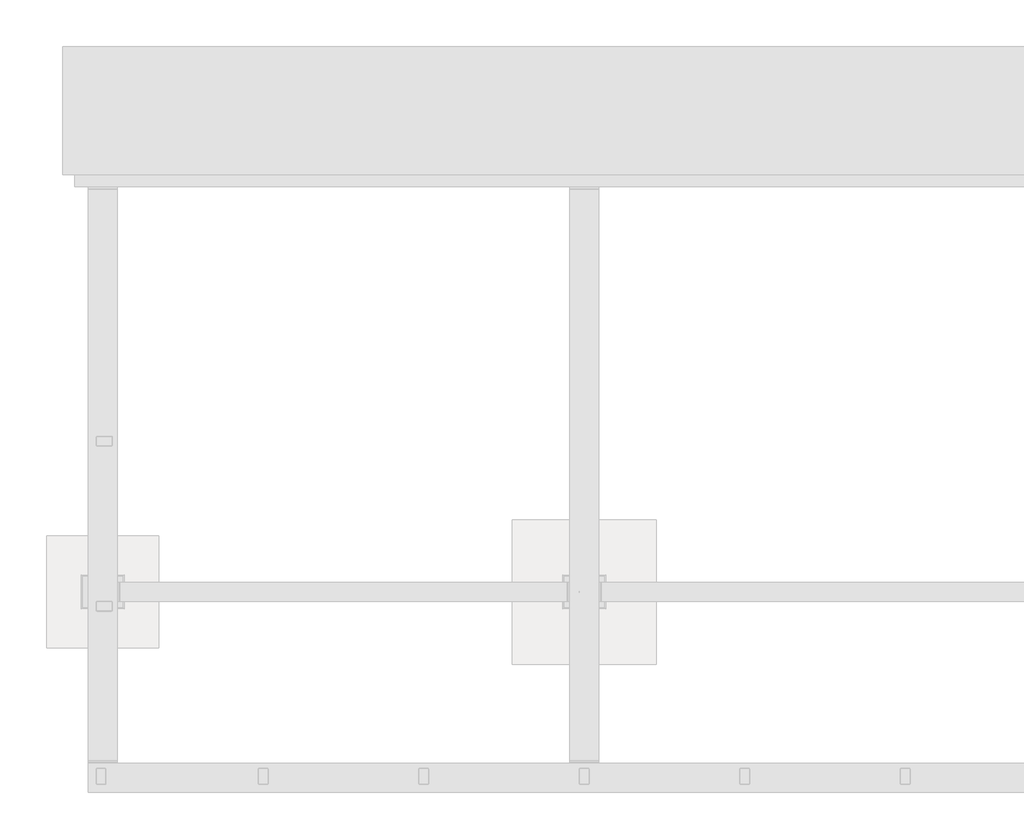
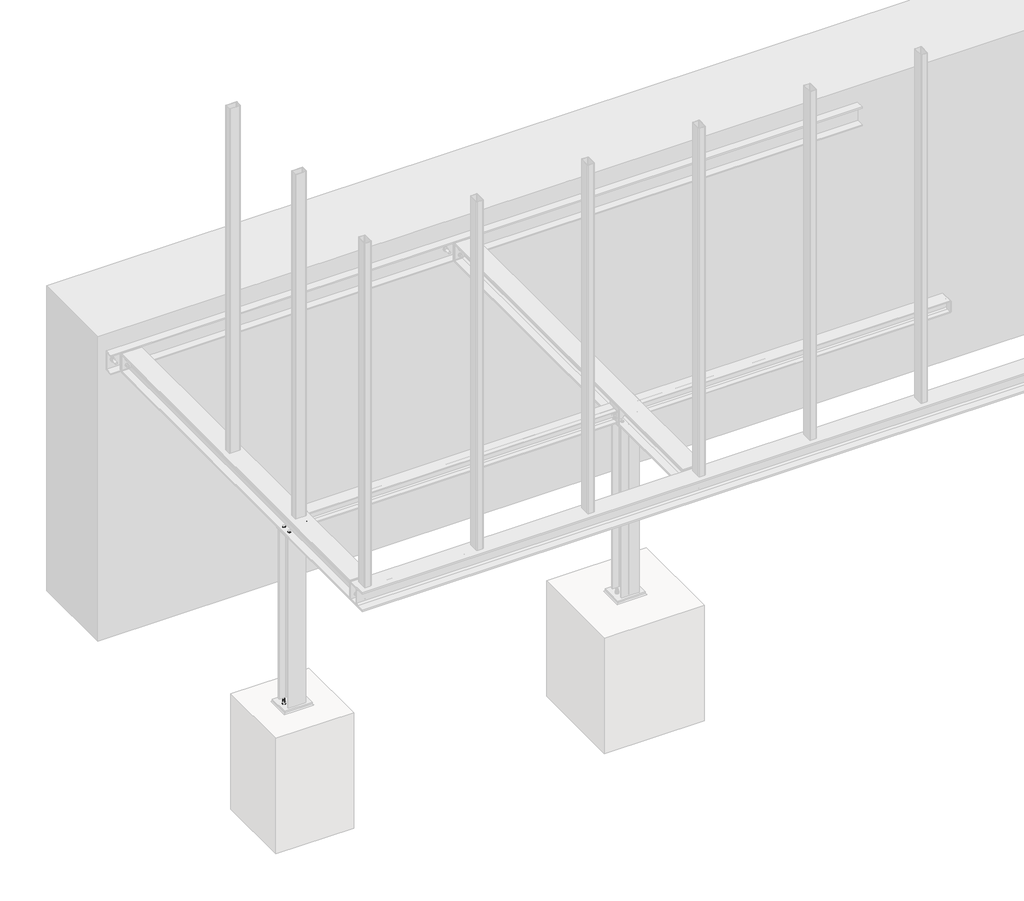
# One storey, part 17 of 31: 7 assemblies.
"""IFC4 building model written with IfcOpenShell, lengths in millimetres."""

import ifcopenshell
import ifcopenshell.guid

model = None  # the IFC model being written
_history = None  # IfcOwnerHistory: only IFC2X3 demands one
_inside = {}  # id of a spatial element -> (the spatial element, [elements in it])
_under = {}  # id of a project, library or spatial element -> (it, [spatial elements below it])
_declared = {}  # id of a project -> (the project, [libraries it declares])
_typed = {}  # id of a type object -> (the type object, [elements of that type])
_made_of = {}  # id of a material, layer set ... -> (it, [elements and type objects made of it])


def new_model(schema):
    """Start an empty IFC model of exactly this schema.

    Asked for "IFC4X3", IfcOpenShell would pick the latest addendum, in which some entities
    have other attributes; the version numbers below select the first issue.
    IFC2X3 requires an IfcOwnerHistory on every rooted entity: one is made here for all.
    """
    global model, _history
    if schema == "IFC4X3":
        model = ifcopenshell.file(schema_version=(4, 3, 0, 0))
    else:
        model = ifcopenshell.file(schema=schema)
    _inside.clear()
    _under.clear()
    _declared.clear()
    _typed.clear()
    _made_of.clear()
    _history = None
    if model.schema == "IFC2X3":
        org = make("IfcOrganization", Name="unknown")
        user = make(
            "IfcPersonAndOrganization",
            ThePerson=make("IfcPerson", FamilyName="unknown"),
            TheOrganization=org,
        )
        app = make(
            "IfcApplication",
            ApplicationDeveloper=org,
            Version="unknown",
            ApplicationFullName="unknown",
            ApplicationIdentifier="unknown",
        )
        _history = make(
            "IfcOwnerHistory",
            OwningUser=user,
            OwningApplication=app,
            ChangeAction="ADDED",
            CreationDate=0,
        )
    return model


def make(cls, **values):
    """One entity of the class cls with the attributes given. An attribute that is None is left unset."""
    return model.create_entity(
        cls, **{name: value for name, value in values.items() if value is not None}
    )


def rooted(cls, **values):
    """An entity with a GlobalId (a new one), such as an element, a storey or a relation."""
    return make(cls, GlobalId=ifcopenshell.guid.new(), OwnerHistory=_history, **values)


def si_unit(unit_type, name, prefix=None):
    """IfcSIUnit, for example si_unit("LENGTHUNIT", "METRE", prefix="MILLI")."""
    return make("IfcSIUnit", UnitType=unit_type, Prefix=prefix, Name=name)


def assignment(units):
    """IfcUnitAssignment: the units of a project."""
    return None if units is None else make("IfcUnitAssignment", Units=units)


def point(xyz):
    """IfcCartesianPoint."""
    return None if xyz is None else make("IfcCartesianPoint", Coordinates=xyz)


def direction(xyz):
    """IfcDirection."""
    return None if xyz is None else make("IfcDirection", DirectionRatios=xyz)


def frame(location, z_axis=None, x_axis=None):
    """IfcAxis2Placement3D, a coordinate frame: its origin and axes. An axis left out is left unset."""
    return make(
        "IfcAxis2Placement3D",
        Location=point(location),
        Axis=direction(z_axis),
        RefDirection=direction(x_axis),
    )


def frame_2d(location, x_axis=None):
    """IfcAxis2Placement2D, a coordinate frame in the plane: its origin and x axis."""
    return make(
        "IfcAxis2Placement2D", Location=point(location), RefDirection=direction(x_axis)
    )


def origin():
    """The frame at (0, 0, 0) with its axes left unset."""
    return frame((0.0, 0.0, 0.0))


def place(relative_to, where):
    """IfcLocalPlacement: puts the frame where relative to a parent placement (None: the world)."""
    return make(
        "IfcLocalPlacement", PlacementRelTo=relative_to, RelativePlacement=where
    )


def context(
    kind, dimensions, precision=None, world=None, true_north=None, identifier=None
):
    """IfcGeometricRepresentationContext, for example the 3D "Model" context."""
    return make(
        "IfcGeometricRepresentationContext",
        ContextIdentifier=identifier,
        ContextType=kind,
        CoordinateSpaceDimension=dimensions,
        Precision=precision,
        WorldCoordinateSystem=world,
        TrueNorth=true_north,
    )


def project(units=None, contexts=None):
    """IfcProject with its units and contexts."""
    return rooted(
        "IfcProject",
        Name="project",
        RepresentationContexts=contexts,
        UnitsInContext=assignment(units),
    )


def spatial(cls, under=None, at=None, **own):
    """A site, building, storey or space (cls), placed at a placement, below another one or the project."""
    s = rooted(cls, ObjectPlacement=at, **own)
    if under is not None:
        _under.setdefault(under.id(), (under, []))[1].append(s)
    return s


def polyline(points):
    """IfcPolyline through the points."""
    return make("IfcPolyline", Points=[point(p) for p in points])


def circle_curve(where, radius):
    """IfcCircle in the frame where."""
    return make("IfcCircle", Position=where, Radius=radius)


def trimmed(basis, trim1, trim2, sense, master):
    """IfcTrimmedCurve: the piece of a basis curve between two trims."""
    return make(
        "IfcTrimmedCurve",
        BasisCurve=basis,
        Trim1=trim1,
        Trim2=trim2,
        SenseAgreement=sense,
        MasterRepresentation=master,
    )


def segment(curve, same_sense, transition):
    """IfcCompositeCurveSegment."""
    return make(
        "IfcCompositeCurveSegment",
        Transition=transition,
        SameSense=same_sense,
        ParentCurve=curve,
    )


def composite_curve(segments, self_intersect=None):
    """IfcCompositeCurve: segments joined end to end."""
    return make("IfcCompositeCurve", Segments=segments, SelfIntersect=self_intersect)


def outline(outer, holes=None, kind="AREA"):
    """IfcArbitraryClosedProfileDef: a profile drawn as a closed curve; with holes, ...WithVoids."""
    if holes is None:
        return make("IfcArbitraryClosedProfileDef", ProfileType=kind, OuterCurve=outer)
    return make(
        "IfcArbitraryProfileDefWithVoids",
        ProfileType=kind,
        OuterCurve=outer,
        InnerCurves=holes,
    )


def extrude(swept, where, along, depth):
    """IfcExtrudedAreaSolid: the profile swept, set in the frame where, extruded along a direction by depth."""
    return make(
        "IfcExtrudedAreaSolid",
        SweptArea=swept,
        Position=where,
        ExtrudedDirection=direction(along),
        Depth=depth,
    )


def faces_of(points, faces, orient=None, outer=None):
    """IfcFace entities. A face is a list of loops; a loop is a list of indices into points, from 0.

    orient and outer hold one flag for each loop. By default every Orientation is true, the
    first loop of a face is its IfcFaceOuterBound and the others are IfcFaceBound.
    """
    made = []
    for i, loops in enumerate(faces):
        bounds = []
        for j, loop in enumerate(loops):
            is_outer = j == 0 if outer is None else outer[i][j]
            bounds.append(
                make(
                    "IfcFaceOuterBound" if is_outer else "IfcFaceBound",
                    Bound=make("IfcPolyLoop", Polygon=[points[k] for k in loop]),
                    Orientation=True if orient is None else orient[i][j],
                )
            )
        made.append(make("IfcFace", Bounds=bounds))
    return made


def faceted_brep(points, faces, orient=None, outer=None, voids=None):
    """IfcFacetedBrep: a solid bounded by flat faces; with voids (closed shells), ...WithVoids."""
    shared = [point(p) for p in points]
    hull = make("IfcClosedShell", CfsFaces=faces_of(shared, faces, orient, outer))
    if voids is None:
        return make("IfcFacetedBrep", Outer=hull)
    return make(
        "IfcFacetedBrepWithVoids",
        Outer=hull,
        Voids=[
            make(cls, CfsFaces=faces_of(shared, fs, o, b)) for cls, fs, o, b in voids
        ],
    )


def shape(context_of_items, identifier, shape_type, items):
    """IfcShapeRepresentation: the items that make up one representation, for example the "Body"."""
    return make(
        "IfcShapeRepresentation",
        ContextOfItems=context_of_items,
        RepresentationIdentifier=identifier,
        RepresentationType=shape_type,
        Items=items,
    )


def made_of(thing, what):
    """Note that an element or type object is made of a material, layer set ...; save() writes the relation."""
    if what is not None:
        _made_of.setdefault(what.id(), (what, []))[1].append(thing)
    return thing


def element(
    cls,
    number,
    at=None,
    inside=None,
    cuts=None,
    type_object=None,
    material=None,
    context=None,
    identifier="Body",
    shape_type=None,
    held_by="IfcProductDefinitionShape",
    body=None,
    shapes=None,
    **own,
):
    """One element of the class cls, such as IfcWall. Its Tag is "e" and its number.

    at: its placement. inside: the storey or other place that contains it. cuts: it is an
    opening in that element (IfcRelVoidsElement). A single representation is given by context,
    identifier, shape_type and body (its items); several are given by shapes. held_by: the class
    of the entity that holds the representations. save() writes the other relations.
    """
    e = rooted(cls, Tag="e%d" % number, ObjectPlacement=at, **own)
    if body is not None:
        shapes = [shape(context, identifier, shape_type, body)]
    if shapes is not None:
        e.Representation = make(held_by, Representations=shapes)
    if inside is not None:
        _inside.setdefault(inside.id(), (inside, []))[1].append(e)
    if cuts is not None:
        rooted(
            "IfcRelVoidsElement", RelatingBuildingElement=cuts, RelatedOpeningElement=e
        )
    if type_object is not None:
        _typed.setdefault(type_object.id(), (type_object, []))[1].append(e)
    return made_of(e, material)


def aggregate(whole, parts):
    """IfcRelAggregates: a whole, such as a stair, and the parts it consists of."""
    return rooted("IfcRelAggregates", RelatingObject=whole, RelatedObjects=parts)


def save(model, path):
    """Write the relations noted so far, then the file.

    IfcRelAggregates (storeys below a building ...), IfcRelContainedInSpatialStructure (elements
    in a storey), IfcRelDefinesByType, IfcRelAssociatesMaterial and IfcRelDeclares: one each for
    every whole, place, type object, material and project.
    """
    for whole, parts in _under.values():
        aggregate(whole, parts)
    for where, things in _inside.values():
        rooted(
            "IfcRelContainedInSpatialStructure",
            RelatedElements=things,
            RelatingStructure=where,
        )
    for kind, things in _typed.values():
        rooted("IfcRelDefinesByType", RelatedObjects=things, RelatingType=kind)
    for what, things in _made_of.values():
        rooted("IfcRelAssociatesMaterial", RelatedObjects=things, RelatingMaterial=what)
    for by, libraries in _declared.values():
        rooted("IfcRelDeclares", RelatingContext=by, RelatedDefinitions=libraries)
    model.write(path)


model = new_model("IFC4")

# Units and contexts
model_context = context("Model", 3, world=origin())
ifc_project = project(units=[si_unit("LENGTHUNIT", "METRE", prefix="MILLI")], contexts=[model_context])

# Site, building, storey
site = spatial("IfcSite", under=ifc_project)
building = spatial("IfcBuilding", under=site)
storey = spatial("IfcBuildingStorey", under=building, Name="Základy", Elevation=-1200.0)

# Assemblies
placement = place(None, origin())
element("IfcElementAssembly", 1, at=placement, inside=storey, context=model_context, shape_type="SweptSolid", body=[
    extrude(outline(composite_curve([segment(polyline([(3073.6, 60.0), (3026.4, 60.0)]), True, "CONTINUOUS"), segment(trimmed(circle_curve(frame_2d((3026.4, 66.4)), 6.4), [point((3026.4, 60.0))], [point((3020.0, 66.4))], False, "CARTESIAN"), True, "CONTINUOUS"), segment(polyline([(3020.0, 66.4), (3020.0, 153.6)]), True, "CONTINUOUS"), segment(trimmed(circle_curve(frame_2d((3026.4, 153.6)), 6.4), [point((3020.0, 153.6))], [point((3026.4, 160.0))], False, "CARTESIAN"), True, "CONTINUOUS"), segment(polyline([(3026.4, 160.0), (3073.6, 160.0)]), True, "CONTINUOUS"), segment(trimmed(circle_curve(frame_2d((3073.6, 153.6)), 6.4), [point((3073.6, 160.0))], [point((3080.0, 153.6))], False, "CARTESIAN"), True, "CONTINUOUS"), segment(polyline([(3080.0, 153.6), (3080.0, 66.4)]), True, "CONTINUOUS"), segment(trimmed(circle_curve(frame_2d((3073.6, 66.4)), 6.4), [point((3080.0, 66.4))], [point((3073.6, 60.0))], False, "CARTESIAN"), True, "CONTINUOUS")], self_intersect=False), holes=[composite_curve([segment(trimmed(circle_curve(frame_2d((3073.6, 66.4)), 3.2), [point((3073.6, 63.2))], [point((3076.8, 66.4))], True, "CARTESIAN"), True, "CONTINUOUS"), segment(polyline([(3076.8, 66.4), (3076.8, 153.6)]), True, "CONTINUOUS"), segment(trimmed(circle_curve(frame_2d((3073.6, 153.6)), 3.2), [point((3076.8, 153.6))], [point((3073.6, 156.8))], True, "CARTESIAN"), True, "CONTINUOUS"), segment(polyline([(3073.6, 156.8), (3026.4, 156.8)]), True, "CONTINUOUS"), segment(trimmed(circle_curve(frame_2d((3026.4, 153.6)), 3.2), [point((3026.4, 156.8))], [point((3023.2, 153.6))], True, "CARTESIAN"), True, "CONTINUOUS"), segment(polyline([(3023.2, 153.6), (3023.2, 66.4)]), True, "CONTINUOUS"), segment(trimmed(circle_curve(frame_2d((3026.4, 66.4)), 3.2), [point((3023.2, 66.4))], [point((3026.4, 63.2))], True, "CARTESIAN"), True, "CONTINUOUS"), segment(polyline([(3026.4, 63.2), (3073.6, 63.2)]), True, "CONTINUOUS")], self_intersect=False)]), frame((0.0, 0.0, -160.0), z_axis=(0.0, 0.0, 1.0), x_axis=(1.0, 0.0, 0.0)), (0.0, 0.0, 1.0), 3320.0),
])
element("IfcElementAssembly", 2, at=placement, inside=storey, context=model_context, shape_type="SweptSolid", body=[
    extrude(outline(polyline([(3500.0, 1710.0), (3500.0, 810.0), (2600.0, 810.0), (2600.0, 1710.0), (3500.0, 1710.0)])), frame((0.0, 0.0, -3100.0), z_axis=(0.0, 0.0, 1.0), x_axis=(1.0, 0.0, 0.0)), (0.0, 0.0, 1.0), 1100.0),
])
element("IfcElementAssembly", 3, at=placement, inside=storey, context=model_context, shape_type="SweptSolid", body=[
    extrude(outline(composite_curve([segment(polyline([(2073.6, 60.0), (2026.4, 60.0)]), True, "CONTINUOUS"), segment(trimmed(circle_curve(frame_2d((2026.4, 66.4)), 6.4), [point((2026.4, 60.0))], [point((2020.0, 66.4))], False, "CARTESIAN"), True, "CONTINUOUS"), segment(polyline([(2020.0, 66.4), (2020.0, 153.6)]), True, "CONTINUOUS"), segment(trimmed(circle_curve(frame_2d((2026.4, 153.6)), 6.4), [point((2020.0, 153.6))], [point((2026.4, 160.0))], False, "CARTESIAN"), True, "CONTINUOUS"), segment(polyline([(2026.4, 160.0), (2073.6, 160.0)]), True, "CONTINUOUS"), segment(trimmed(circle_curve(frame_2d((2073.6, 153.6)), 6.4), [point((2073.6, 160.0))], [point((2080.0, 153.6))], False, "CARTESIAN"), True, "CONTINUOUS"), segment(polyline([(2080.0, 153.6), (2080.0, 66.4)]), True, "CONTINUOUS"), segment(trimmed(circle_curve(frame_2d((2073.6, 66.4)), 6.4), [point((2080.0, 66.4))], [point((2073.6, 60.0))], False, "CARTESIAN"), True, "CONTINUOUS")], self_intersect=False), holes=[composite_curve([segment(trimmed(circle_curve(frame_2d((2073.6, 66.4)), 3.2), [point((2073.6, 63.2))], [point((2076.8, 66.4))], True, "CARTESIAN"), True, "CONTINUOUS"), segment(polyline([(2076.8, 66.4), (2076.8, 153.6)]), True, "CONTINUOUS"), segment(trimmed(circle_curve(frame_2d((2073.6, 153.6)), 3.2), [point((2076.8, 153.6))], [point((2073.6, 156.8))], True, "CARTESIAN"), True, "CONTINUOUS"), segment(polyline([(2073.6, 156.8), (2026.4, 156.8)]), True, "CONTINUOUS"), segment(trimmed(circle_curve(frame_2d((2026.4, 153.6)), 3.2), [point((2026.4, 156.8))], [point((2023.2, 153.6))], True, "CARTESIAN"), True, "CONTINUOUS"), segment(polyline([(2023.2, 153.6), (2023.2, 66.4)]), True, "CONTINUOUS"), segment(trimmed(circle_curve(frame_2d((2026.4, 66.4)), 3.2), [point((2023.2, 66.4))], [point((2026.4, 63.2))], True, "CARTESIAN"), True, "CONTINUOUS"), segment(polyline([(2026.4, 63.2), (2073.6, 63.2)]), True, "CONTINUOUS")], self_intersect=False)]), frame((0.0, 0.0, -160.0), z_axis=(0.0, 0.0, 1.0), x_axis=(1.0, 0.0, 0.0)), (0.0, 0.0, 1.0), 3320.0),
])
element("IfcElementAssembly", 4, at=placement, inside=storey, context=model_context, shape_type="SweptSolid", body=[
    extrude(outline(composite_curve([segment(polyline([(1200.0, -193.0), (1320.0, -193.0), (1320.0, -201.0), (1274.5, -201.0)]), True, "CONTINUOUS"), segment(trimmed(circle_curve(frame_2d((1274.5, -213.0)), 12.0), [point((1274.5, -201.0))], [point((1262.5, -213.0))], True, "CARTESIAN"), True, "CONTINUOUS"), segment(polyline([(1262.5, -213.0), (1262.5, -287.0)]), True, "CONTINUOUS"), segment(trimmed(circle_curve(frame_2d((1274.5, -287.0)), 12.0), [point((1262.5, -287.0))], [point((1274.5, -299.0))], True, "CARTESIAN"), True, "CONTINUOUS"), segment(polyline([(1274.5, -299.0), (1320.0, -299.0), (1320.0, -307.0), (1200.0, -307.0), (1200.0, -299.0), (1245.5, -299.0)]), True, "CONTINUOUS"), segment(trimmed(circle_curve(frame_2d((1245.5, -287.0)), 12.0), [point((1245.5, -299.0))], [point((1257.5, -287.0))], True, "CARTESIAN"), True, "CONTINUOUS"), segment(polyline([(1257.5, -287.0), (1257.5, -213.0)]), True, "CONTINUOUS"), segment(trimmed(circle_curve(frame_2d((1245.5, -213.0)), 12.0), [point((1257.5, -213.0))], [point((1245.5, -201.0))], True, "CARTESIAN"), True, "CONTINUOUS"), segment(polyline([(1245.5, -201.0), (1200.0, -201.0), (1200.0, -193.0)]), True, "CONTINUOUS")], self_intersect=False)), frame((160.0, 0.0, 0.0), z_axis=(1.0, 0.0, 0.0), x_axis=(0.0, 1.0, 0.0)), (0.0, 0.0, 1.0), 2780.0),
    extrude(outline(polyline([(2940.0, 1200.0), (2940.0, 1320.0), (2950.0, 1320.0), (2950.0, 1200.0), (2940.0, 1200.0)])), frame((0.0, 0.0, -299.0), z_axis=(0.0, 0.0, 1.0), x_axis=(1.0, 0.0, 0.0)), (0.0, 0.0, 1.0), 98.0),
    extrude(outline(polyline([(150.0, 1200.0), (150.0, 1320.0), (160.0, 1320.0), (160.0, 1200.0), (150.0, 1200.0)])), frame((0.0, 0.0, -299.0), z_axis=(0.0, 0.0, 1.0), x_axis=(1.0, 0.0, 0.0)), (0.0, 0.0, 1.0), 98.0),
])
element("IfcElementAssembly", 5, at=placement, inside=storey, context=model_context, shape_type="SweptSolid", body=[
    extrude(outline(composite_curve([segment(polyline([(-340.0, -40.0), (-340.0, 140.0), (-326.0, 140.0), (-326.0, 69.25)]), True, "CONTINUOUS"), segment(trimmed(circle_curve(frame_2d((-311.0, 69.25)), 15.0), [point((-326.0, 69.25))], [point((-311.0, 54.25))], True, "CARTESIAN"), True, "CONTINUOUS"), segment(polyline([(-311.0, 54.25), (-189.0, 54.25)]), True, "CONTINUOUS"), segment(trimmed(circle_curve(frame_2d((-189.0, 69.25)), 15.0), [point((-189.0, 54.25))], [point((-174.0, 69.25))], True, "CARTESIAN"), True, "CONTINUOUS"), segment(polyline([(-174.0, 69.25), (-174.0, 140.0), (-160.0, 140.0), (-160.0, -40.0), (-174.0, -40.0), (-174.0, 30.75)]), True, "CONTINUOUS"), segment(trimmed(circle_curve(frame_2d((-189.0, 30.75)), 15.0), [point((-174.0, 30.75))], [point((-189.0, 45.75))], True, "CARTESIAN"), True, "CONTINUOUS"), segment(polyline([(-189.0, 45.75), (-311.0, 45.75)]), True, "CONTINUOUS"), segment(trimmed(circle_curve(frame_2d((-311.0, 30.75)), 15.0), [point((-311.0, 45.75))], [point((-326.0, 30.75))], True, "CARTESIAN"), True, "CONTINUOUS"), segment(polyline([(-326.0, 30.75), (-326.0, -40.0), (-340.0, -40.0)]), True, "CONTINUOUS")], self_intersect=False)), frame((0.0, 210.0, 0.0), z_axis=(0.0, 1.0, 0.0), x_axis=(0.0, 0.0, 1.0)), (0.0, 0.0, 1.0), 3557.0),
    extrude(outline(polyline([(-40.0, 3775.0), (140.0, 3775.0), (140.0, 3767.0), (-40.0, 3767.0), (-40.0, 3775.0)])), frame((0.0, 0.0, -316.0), z_axis=(0.0, 0.0, 1.0), x_axis=(1.0, 0.0, 0.0)), (0.0, 0.0, 1.0), 132.0),
    extrude(outline(polyline([(140.0, 1200.0), (140.0, 1320.0), (150.0, 1320.0), (150.0, 1200.0), (140.0, 1200.0)])), frame((0.0, 0.0, -332.0), z_axis=(0.0, 0.0, 1.0), x_axis=(1.0, 0.0, 0.0)), (0.0, 0.0, 1.0), 164.0),
    extrude(outline(composite_curve([segment(polyline([(-174.0, 140.0), (-174.0, 79.5)]), True, "CONTINUOUS"), segment(trimmed(circle_curve(frame_2d((-174.0, 54.5)), 25.0), [point((-174.0, 79.5))], [point((-199.0, 54.5))], True, "CARTESIAN"), True, "CONTINUOUS"), segment(polyline([(-199.0, 54.5), (-301.0, 54.5)]), True, "CONTINUOUS"), segment(trimmed(circle_curve(frame_2d((-326.0, 54.5)), 25.0), [point((-301.0, 54.5))], [point((-326.0, 79.5))], True, "CARTESIAN"), True, "CONTINUOUS"), segment(polyline([(-326.0, 79.5), (-326.0, 140.0), (-174.0, 140.0)]), True, "CONTINUOUS")], self_intersect=False)), frame((0.0, 1256.0, 0.0), z_axis=(0.0, 1.0, 0.0), x_axis=(0.0, 0.0, 1.0)), (0.0, 0.0, 1.0), 8.0),
    extrude(outline(polyline([(-40.0, 210.0), (140.0, 210.0), (140.0, 200.0), (-40.0, 200.0), (-40.0, 210.0)])), frame((0.0, 0.0, -332.0), z_axis=(0.0, 0.0, 1.0), x_axis=(1.0, 0.0, 0.0)), (0.0, 0.0, 1.0), 164.0),
    extrude(outline(composite_curve([segment(trimmed(circle_curve(frame_2d((1230.0, -225.0)), 6.5), [point((1230.0, -231.5))], [point((1230.0, -218.5))], False, "CARTESIAN"), True, "CONTINUOUS"), segment(trimmed(circle_curve(frame_2d((1230.0, -225.0)), 6.5), [point((1230.0, -218.5))], [point((1230.0, -231.5))], False, "CARTESIAN"), True, "CONTINUOUS")], self_intersect=False)), frame((140.1, 0.0, 0.0), z_axis=(1.0, 0.0, 0.0), x_axis=(0.0, 1.0, 0.0)), (0.0, 0.0, 1.0), 10.0),
    extrude(outline(polyline([(1230.0, -235.3923048), (1221.0, -230.1961524), (1221.0, -219.8038476), (1230.0, -214.6076952), (1239.0, -219.8038476), (1239.0, -230.1961524), (1230.0, -235.3923048)])), frame((130.0, 0.0, 0.0), z_axis=(1.0, 0.0, 0.0), x_axis=(0.0, 1.0, 0.0)), (0.0, 0.0, 1.0), 7.5),
    extrude(outline(composite_curve([segment(trimmed(circle_curve(frame_2d((1230.0, -225.0)), 6.0), [point((1230.0, -231.0))], [point((1230.0, -219.0))], False, "CARTESIAN"), True, "CONTINUOUS"), segment(trimmed(circle_curve(frame_2d((1230.0, -225.0)), 6.0), [point((1230.0, -219.0))], [point((1230.0, -231.0))], False, "CARTESIAN"), True, "CONTINUOUS")], self_intersect=False)), frame((137.5, 0.0, 0.0), z_axis=(1.0, 0.0, 0.0), x_axis=(0.0, 1.0, 0.0)), (0.0, 0.0, 1.0), 40.0),
    extrude(outline(composite_curve([segment(trimmed(circle_curve(frame_2d((1230.0, -225.0)), 12.0), [point((1230.0, -237.0))], [point((1230.0, -213.0))], False, "CARTESIAN"), True, "CONTINUOUS"), segment(trimmed(circle_curve(frame_2d((1230.0, -225.0)), 12.0), [point((1230.0, -213.0))], [point((1230.0, -237.0))], False, "CARTESIAN"), True, "CONTINUOUS")], self_intersect=False)), frame((137.5, 0.0, 0.0), z_axis=(1.0, 0.0, 0.0), x_axis=(0.0, 1.0, 0.0)), (0.0, 0.0, 1.0), 2.5),
    extrude(outline(composite_curve([segment(trimmed(circle_curve(frame_2d((1230.0, -225.0)), 12.0), [point((1230.0, -237.0))], [point((1230.0, -213.0))], False, "CARTESIAN"), True, "CONTINUOUS"), segment(trimmed(circle_curve(frame_2d((1230.0, -225.0)), 12.0), [point((1230.0, -213.0))], [point((1230.0, -237.0))], False, "CARTESIAN"), True, "CONTINUOUS")], self_intersect=False)), frame((160.0, 0.0, 0.0), z_axis=(1.0, 0.0, 0.0), x_axis=(0.0, 1.0, 0.0)), (0.0, 0.0, 1.0), 2.5),
    extrude(outline(polyline([(1230.0, -235.9696551), (1220.5, -230.4848276), (1220.5, -219.5151724), (1230.0, -214.0303449), (1239.5, -219.5151724), (1239.5, -230.4848276), (1230.0, -235.9696551)])), frame((162.5, 0.0, 0.0), z_axis=(1.0, 0.0, 0.0), x_axis=(0.0, 1.0, 0.0)), (0.0, 0.0, 1.0), 10.0),
    extrude(outline(composite_curve([segment(trimmed(circle_curve(frame_2d((1230.0, -225.0)), 6.5), [point((1230.0, -231.5))], [point((1230.0, -218.5))], False, "CARTESIAN"), True, "CONTINUOUS"), segment(trimmed(circle_curve(frame_2d((1230.0, -225.0)), 6.5), [point((1230.0, -218.5))], [point((1230.0, -231.5))], False, "CARTESIAN"), True, "CONTINUOUS")], self_intersect=False)), frame((149.9, 0.0, 0.0), z_axis=(1.0, 0.0, 0.0), x_axis=(0.0, 1.0, 0.0)), (0.0, 0.0, 1.0), 10.1),
    extrude(outline(composite_curve([segment(trimmed(circle_curve(frame_2d((1230.0, -275.0)), 6.5), [point((1230.0, -281.5))], [point((1230.0, -268.5))], False, "CARTESIAN"), True, "CONTINUOUS"), segment(trimmed(circle_curve(frame_2d((1230.0, -275.0)), 6.5), [point((1230.0, -268.5))], [point((1230.0, -281.5))], False, "CARTESIAN"), True, "CONTINUOUS")], self_intersect=False)), frame((140.1, 0.0, 0.0), z_axis=(1.0, 0.0, 0.0), x_axis=(0.0, 1.0, 0.0)), (0.0, 0.0, 1.0), 10.0),
    extrude(outline(polyline([(1230.0, -285.3923048), (1221.0, -280.1961524), (1221.0, -269.8038476), (1230.0, -264.6076952), (1239.0, -269.8038476), (1239.0, -280.1961524), (1230.0, -285.3923048)])), frame((130.0, 0.0, 0.0), z_axis=(1.0, 0.0, 0.0), x_axis=(0.0, 1.0, 0.0)), (0.0, 0.0, 1.0), 7.5),
    extrude(outline(composite_curve([segment(trimmed(circle_curve(frame_2d((1230.0, -275.0)), 6.0), [point((1230.0, -281.0))], [point((1230.0, -269.0))], False, "CARTESIAN"), True, "CONTINUOUS"), segment(trimmed(circle_curve(frame_2d((1230.0, -275.0)), 6.0), [point((1230.0, -269.0))], [point((1230.0, -281.0))], False, "CARTESIAN"), True, "CONTINUOUS")], self_intersect=False)), frame((137.5, 0.0, 0.0), z_axis=(1.0, 0.0, 0.0), x_axis=(0.0, 1.0, 0.0)), (0.0, 0.0, 1.0), 40.0),
    extrude(outline(composite_curve([segment(trimmed(circle_curve(frame_2d((1230.0, -275.0)), 12.0), [point((1230.0, -287.0))], [point((1230.0, -263.0))], False, "CARTESIAN"), True, "CONTINUOUS"), segment(trimmed(circle_curve(frame_2d((1230.0, -275.0)), 12.0), [point((1230.0, -263.0))], [point((1230.0, -287.0))], False, "CARTESIAN"), True, "CONTINUOUS")], self_intersect=False)), frame((137.5, 0.0, 0.0), z_axis=(1.0, 0.0, 0.0), x_axis=(0.0, 1.0, 0.0)), (0.0, 0.0, 1.0), 2.5),
    extrude(outline(composite_curve([segment(trimmed(circle_curve(frame_2d((1230.0, -275.0)), 12.0), [point((1230.0, -287.0))], [point((1230.0, -263.0))], False, "CARTESIAN"), True, "CONTINUOUS"), segment(trimmed(circle_curve(frame_2d((1230.0, -275.0)), 12.0), [point((1230.0, -263.0))], [point((1230.0, -287.0))], False, "CARTESIAN"), True, "CONTINUOUS")], self_intersect=False)), frame((160.0, 0.0, 0.0), z_axis=(1.0, 0.0, 0.0), x_axis=(0.0, 1.0, 0.0)), (0.0, 0.0, 1.0), 2.5),
    extrude(outline(polyline([(1230.0, -285.9696551), (1220.5, -280.4848276), (1220.5, -269.5151724), (1230.0, -264.0303449), (1239.5, -269.5151724), (1239.5, -280.4848276), (1230.0, -285.9696551)])), frame((162.5, 0.0, 0.0), z_axis=(1.0, 0.0, 0.0), x_axis=(0.0, 1.0, 0.0)), (0.0, 0.0, 1.0), 10.0),
    extrude(outline(composite_curve([segment(trimmed(circle_curve(frame_2d((1230.0, -275.0)), 6.5), [point((1230.0, -281.5))], [point((1230.0, -268.5))], False, "CARTESIAN"), True, "CONTINUOUS"), segment(trimmed(circle_curve(frame_2d((1230.0, -275.0)), 6.5), [point((1230.0, -268.5))], [point((1230.0, -281.5))], False, "CARTESIAN"), True, "CONTINUOUS")], self_intersect=False)), frame((149.9, 0.0, 0.0), z_axis=(1.0, 0.0, 0.0), x_axis=(0.0, 1.0, 0.0)), (0.0, 0.0, 1.0), 10.1),
    extrude(outline(composite_curve([segment(trimmed(circle_curve(frame_2d((1290.0, -225.0)), 6.5), [point((1290.0, -231.5))], [point((1290.0, -218.5))], False, "CARTESIAN"), True, "CONTINUOUS"), segment(trimmed(circle_curve(frame_2d((1290.0, -225.0)), 6.5), [point((1290.0, -218.5))], [point((1290.0, -231.5))], False, "CARTESIAN"), True, "CONTINUOUS")], self_intersect=False)), frame((140.1, 0.0, 0.0), z_axis=(1.0, 0.0, 0.0), x_axis=(0.0, 1.0, 0.0)), (0.0, 0.0, 1.0), 10.0),
    extrude(outline(polyline([(1290.0, -235.3923048), (1281.0, -230.1961524), (1281.0, -219.8038476), (1290.0, -214.6076952), (1299.0, -219.8038476), (1299.0, -230.1961524), (1290.0, -235.3923048)])), frame((130.0, 0.0, 0.0), z_axis=(1.0, 0.0, 0.0), x_axis=(0.0, 1.0, 0.0)), (0.0, 0.0, 1.0), 7.5),
    extrude(outline(composite_curve([segment(trimmed(circle_curve(frame_2d((1290.0, -225.0)), 6.0), [point((1290.0, -231.0))], [point((1290.0, -219.0))], False, "CARTESIAN"), True, "CONTINUOUS"), segment(trimmed(circle_curve(frame_2d((1290.0, -225.0)), 6.0), [point((1290.0, -219.0))], [point((1290.0, -231.0))], False, "CARTESIAN"), True, "CONTINUOUS")], self_intersect=False)), frame((137.5, 0.0, 0.0), z_axis=(1.0, 0.0, 0.0), x_axis=(0.0, 1.0, 0.0)), (0.0, 0.0, 1.0), 40.0),
    extrude(outline(composite_curve([segment(trimmed(circle_curve(frame_2d((1290.0, -225.0)), 12.0), [point((1290.0, -237.0))], [point((1290.0, -213.0))], False, "CARTESIAN"), True, "CONTINUOUS"), segment(trimmed(circle_curve(frame_2d((1290.0, -225.0)), 12.0), [point((1290.0, -213.0))], [point((1290.0, -237.0))], False, "CARTESIAN"), True, "CONTINUOUS")], self_intersect=False)), frame((137.5, 0.0, 0.0), z_axis=(1.0, 0.0, 0.0), x_axis=(0.0, 1.0, 0.0)), (0.0, 0.0, 1.0), 2.5),
    extrude(outline(composite_curve([segment(trimmed(circle_curve(frame_2d((1290.0, -225.0)), 12.0), [point((1290.0, -237.0))], [point((1290.0, -213.0))], False, "CARTESIAN"), True, "CONTINUOUS"), segment(trimmed(circle_curve(frame_2d((1290.0, -225.0)), 12.0), [point((1290.0, -213.0))], [point((1290.0, -237.0))], False, "CARTESIAN"), True, "CONTINUOUS")], self_intersect=False)), frame((160.0, 0.0, 0.0), z_axis=(1.0, 0.0, 0.0), x_axis=(0.0, 1.0, 0.0)), (0.0, 0.0, 1.0), 2.5),
    extrude(outline(polyline([(1290.0, -235.9696551), (1280.5, -230.4848276), (1280.5, -219.5151724), (1290.0, -214.0303449), (1299.5, -219.5151724), (1299.5, -230.4848276), (1290.0, -235.9696551)])), frame((162.5, 0.0, 0.0), z_axis=(1.0, 0.0, 0.0), x_axis=(0.0, 1.0, 0.0)), (0.0, 0.0, 1.0), 10.0),
    extrude(outline(composite_curve([segment(trimmed(circle_curve(frame_2d((1290.0, -225.0)), 6.5), [point((1290.0, -231.5))], [point((1290.0, -218.5))], False, "CARTESIAN"), True, "CONTINUOUS"), segment(trimmed(circle_curve(frame_2d((1290.0, -225.0)), 6.5), [point((1290.0, -218.5))], [point((1290.0, -231.5))], False, "CARTESIAN"), True, "CONTINUOUS")], self_intersect=False)), frame((149.9, 0.0, 0.0), z_axis=(1.0, 0.0, 0.0), x_axis=(0.0, 1.0, 0.0)), (0.0, 0.0, 1.0), 10.1),
    extrude(outline(composite_curve([segment(trimmed(circle_curve(frame_2d((1290.0, -275.0)), 6.5), [point((1290.0, -281.5))], [point((1290.0, -268.5))], False, "CARTESIAN"), True, "CONTINUOUS"), segment(trimmed(circle_curve(frame_2d((1290.0, -275.0)), 6.5), [point((1290.0, -268.5))], [point((1290.0, -281.5))], False, "CARTESIAN"), True, "CONTINUOUS")], self_intersect=False)), frame((140.1, 0.0, 0.0), z_axis=(1.0, 0.0, 0.0), x_axis=(0.0, 1.0, 0.0)), (0.0, 0.0, 1.0), 10.0),
    extrude(outline(polyline([(1290.0, -285.3923048), (1281.0, -280.1961524), (1281.0, -269.8038476), (1290.0, -264.6076952), (1299.0, -269.8038476), (1299.0, -280.1961524), (1290.0, -285.3923048)])), frame((130.0, 0.0, 0.0), z_axis=(1.0, 0.0, 0.0), x_axis=(0.0, 1.0, 0.0)), (0.0, 0.0, 1.0), 7.5),
    extrude(outline(composite_curve([segment(trimmed(circle_curve(frame_2d((1290.0, -275.0)), 6.0), [point((1290.0, -281.0))], [point((1290.0, -269.0))], False, "CARTESIAN"), True, "CONTINUOUS"), segment(trimmed(circle_curve(frame_2d((1290.0, -275.0)), 6.0), [point((1290.0, -269.0))], [point((1290.0, -281.0))], False, "CARTESIAN"), True, "CONTINUOUS")], self_intersect=False)), frame((137.5, 0.0, 0.0), z_axis=(1.0, 0.0, 0.0), x_axis=(0.0, 1.0, 0.0)), (0.0, 0.0, 1.0), 40.0),
    extrude(outline(composite_curve([segment(trimmed(circle_curve(frame_2d((1290.0, -275.0)), 12.0), [point((1290.0, -287.0))], [point((1290.0, -263.0))], False, "CARTESIAN"), True, "CONTINUOUS"), segment(trimmed(circle_curve(frame_2d((1290.0, -275.0)), 12.0), [point((1290.0, -263.0))], [point((1290.0, -287.0))], False, "CARTESIAN"), True, "CONTINUOUS")], self_intersect=False)), frame((137.5, 0.0, 0.0), z_axis=(1.0, 0.0, 0.0), x_axis=(0.0, 1.0, 0.0)), (0.0, 0.0, 1.0), 2.5),
    extrude(outline(composite_curve([segment(trimmed(circle_curve(frame_2d((1290.0, -275.0)), 12.0), [point((1290.0, -287.0))], [point((1290.0, -263.0))], False, "CARTESIAN"), True, "CONTINUOUS"), segment(trimmed(circle_curve(frame_2d((1290.0, -275.0)), 12.0), [point((1290.0, -263.0))], [point((1290.0, -287.0))], False, "CARTESIAN"), True, "CONTINUOUS")], self_intersect=False)), frame((160.0, 0.0, 0.0), z_axis=(1.0, 0.0, 0.0), x_axis=(0.0, 1.0, 0.0)), (0.0, 0.0, 1.0), 2.5),
    extrude(outline(polyline([(1290.0, -285.9696551), (1280.5, -280.4848276), (1280.5, -269.5151724), (1290.0, -264.0303449), (1299.5, -269.5151724), (1299.5, -280.4848276), (1290.0, -285.9696551)])), frame((162.5, 0.0, 0.0), z_axis=(1.0, 0.0, 0.0), x_axis=(0.0, 1.0, 0.0)), (0.0, 0.0, 1.0), 10.0),
    extrude(outline(composite_curve([segment(trimmed(circle_curve(frame_2d((1290.0, -275.0)), 6.5), [point((1290.0, -281.5))], [point((1290.0, -268.5))], False, "CARTESIAN"), True, "CONTINUOUS"), segment(trimmed(circle_curve(frame_2d((1290.0, -275.0)), 6.5), [point((1290.0, -268.5))], [point((1290.0, -281.5))], False, "CARTESIAN"), True, "CONTINUOUS")], self_intersect=False)), frame((149.9, 0.0, 0.0), z_axis=(1.0, 0.0, 0.0), x_axis=(0.0, 1.0, 0.0)), (0.0, 0.0, 1.0), 10.1),
])
element("IfcElementAssembly", 6, at=placement, inside=storey, context=model_context, shape_type="Brep", body=[
    faceted_brep([(-75.0, 1356.0, -1990.0), (-75.0, 1164.0, -1990.0), (175.0, 1164.0, -1990.0), (175.0, 1356.0, -1990.0), (185.0, 1154.0, -2000.0), (-85.0, 1154.0, -2000.0), (-85.0, 1366.0, -2000.0), (185.0, 1366.0, -2000.0)], [[[0, 1, 2, 3]], [[4, 5, 6, 7]], [[5, 4, 2, 1]], [[1, 0, 6, 5]], [[7, 6, 0, 3]], [[3, 2, 4, 7]]]),
])
element("IfcElementAssembly", 7, at=placement, inside=storey, context=model_context, shape_type="SweptSolid", body=[
    extrude(outline(composite_curve([segment(polyline([(130.0, 1184.0), (-30.0, 1184.0), (-30.0, 1193.0), (32.0, 1193.0)]), True, "CONTINUOUS"), segment(trimmed(circle_curve(frame_2d((32.0, 1208.0)), 15.0), [point((32.0, 1193.0))], [point((47.0, 1208.0))], True, "CARTESIAN"), True, "CONTINUOUS"), segment(polyline([(47.0, 1208.0), (47.0, 1312.0)]), True, "CONTINUOUS"), segment(trimmed(circle_curve(frame_2d((32.0, 1312.0)), 15.0), [point((47.0, 1312.0))], [point((32.0, 1327.0))], True, "CARTESIAN"), True, "CONTINUOUS"), segment(polyline([(32.0, 1327.0), (-30.0, 1327.0), (-30.0, 1336.0), (130.0, 1336.0), (130.0, 1327.0), (68.0, 1327.0)]), True, "CONTINUOUS"), segment(trimmed(circle_curve(frame_2d((68.0, 1312.0)), 15.0), [point((68.0, 1327.0))], [point((53.0, 1312.0))], True, "CARTESIAN"), True, "CONTINUOUS"), segment(polyline([(53.0, 1312.0), (53.0, 1208.0)]), True, "CONTINUOUS"), segment(trimmed(circle_curve(frame_2d((68.0, 1208.0)), 15.0), [point((53.0, 1208.0))], [point((68.0, 1193.0))], True, "CARTESIAN"), True, "CONTINUOUS"), segment(polyline([(68.0, 1193.0), (130.0, 1193.0), (130.0, 1184.0)]), True, "CONTINUOUS")], self_intersect=False)), frame((0.0, 0.0, -1975.0), z_axis=(0.0, 0.0, 1.0), x_axis=(1.0, 0.0, 0.0)), (0.0, 0.0, 1.0), 1625.0),
    extrude(outline(polyline([(175.0, 1356.0), (175.0, 1164.0), (-75.0, 1164.0), (-75.0, 1356.0), (175.0, 1356.0)])), frame((0.0, 0.0, -1990.0), z_axis=(0.0, 0.0, 1.0), x_axis=(1.0, 0.0, 0.0)), (0.0, 0.0, 1.0), 15.0),
    extrude(outline(polyline([(140.0, 1346.0), (140.0, 1174.0), (-40.0, 1174.0), (-40.0, 1346.0), (140.0, 1346.0)])), frame((0.0, 0.0, -350.0), z_axis=(0.0, 0.0, 1.0), x_axis=(1.0, 0.0, 0.0)), (0.0, 0.0, 1.0), 10.0),
    extrude(outline(composite_curve([segment(trimmed(circle_curve(frame_2d((0.0, 1220.0)), 6.5), [point((6.5, 1220.0))], [point((-6.5, 1220.0))], False, "CARTESIAN"), True, "CONTINUOUS"), segment(trimmed(circle_curve(frame_2d((0.0, 1220.0)), 6.5), [point((-6.5, 1220.0))], [point((6.5, 1220.0))], False, "CARTESIAN"), True, "CONTINUOUS")], self_intersect=False)), frame((0.0, 0.0, -350.0), z_axis=(0.0, 0.0, 1.0), x_axis=(1.0, 0.0, 0.0)), (0.0, 0.0, 1.0), 10.1),
    extrude(outline(polyline([(10.3923048, 1220.0), (5.1961524, 1211.0), (-5.1961524, 1211.0), (-10.3923048, 1220.0), (-5.1961524, 1229.0), (5.1961524, 1229.0), (10.3923048, 1220.0)])), frame((0.0, 0.0, -323.5), z_axis=(0.0, 0.0, 1.0), x_axis=(1.0, 0.0, 0.0)), (0.0, 0.0, 1.0), 7.5),
    extrude(outline(composite_curve([segment(trimmed(circle_curve(frame_2d((0.0, 1220.0)), 6.0), [point((6.0, 1220.0))], [point((-6.0, 1220.0))], False, "CARTESIAN"), True, "CONTINUOUS"), segment(trimmed(circle_curve(frame_2d((0.0, 1220.0)), 6.0), [point((-6.0, 1220.0))], [point((6.0, 1220.0))], False, "CARTESIAN"), True, "CONTINUOUS")], self_intersect=False)), frame((0.0, 0.0, -368.5), z_axis=(0.0, 0.0, 1.0), x_axis=(1.0, 0.0, 0.0)), (0.0, 0.0, 1.0), 45.0),
    extrude(outline(composite_curve([segment(trimmed(circle_curve(frame_2d((0.0, 1220.0)), 12.0), [point((12.0, 1220.0))], [point((-12.0, 1220.0))], False, "CARTESIAN"), True, "CONTINUOUS"), segment(trimmed(circle_curve(frame_2d((0.0, 1220.0)), 12.0), [point((-12.0, 1220.0))], [point((12.0, 1220.0))], False, "CARTESIAN"), True, "CONTINUOUS")], self_intersect=False)), frame((0.0, 0.0, -326.0), z_axis=(0.0, 0.0, 1.0), x_axis=(1.0, 0.0, 0.0)), (0.0, 0.0, 1.0), 2.5),
    extrude(outline(composite_curve([segment(trimmed(circle_curve(frame_2d((0.0, 1220.0)), 12.0), [point((12.0, 1220.0))], [point((-12.0, 1220.0))], False, "CARTESIAN"), True, "CONTINUOUS"), segment(trimmed(circle_curve(frame_2d((0.0, 1220.0)), 12.0), [point((-12.0, 1220.0))], [point((12.0, 1220.0))], False, "CARTESIAN"), True, "CONTINUOUS")], self_intersect=False)), frame((0.0, 0.0, -352.5), z_axis=(0.0, 0.0, 1.0), x_axis=(1.0, 0.0, 0.0)), (0.0, 0.0, 1.0), 2.5),
    extrude(outline(polyline([(10.9696551, 1220.0), (5.4848276, 1210.5), (-5.4848276, 1210.5), (-10.9696551, 1220.0), (-5.4848276, 1229.5), (5.4848276, 1229.5), (10.9696551, 1220.0)])), frame((0.0, 0.0, -362.5), z_axis=(0.0, 0.0, 1.0), x_axis=(1.0, 0.0, 0.0)), (0.0, 0.0, 1.0), 10.0),
    extrude(outline(composite_curve([segment(trimmed(circle_curve(frame_2d((0.0, 1220.0)), 6.5), [point((6.5, 1220.0))], [point((-6.5, 1220.0))], False, "CARTESIAN"), True, "CONTINUOUS"), segment(trimmed(circle_curve(frame_2d((0.0, 1220.0)), 6.5), [point((-6.5, 1220.0))], [point((6.5, 1220.0))], False, "CARTESIAN"), True, "CONTINUOUS")], self_intersect=False)), frame((0.0, 0.0, -340.1), z_axis=(0.0, 0.0, 1.0), x_axis=(1.0, 0.0, 0.0)), (0.0, 0.0, 1.0), 14.0),
    extrude(outline(composite_curve([segment(trimmed(circle_curve(frame_2d((100.0, 1220.0)), 6.5), [point((106.5, 1220.0))], [point((93.5, 1220.0))], False, "CARTESIAN"), True, "CONTINUOUS"), segment(trimmed(circle_curve(frame_2d((100.0, 1220.0)), 6.5), [point((93.5, 1220.0))], [point((106.5, 1220.0))], False, "CARTESIAN"), True, "CONTINUOUS")], self_intersect=False)), frame((0.0, 0.0, -350.0), z_axis=(0.0, 0.0, 1.0), x_axis=(1.0, 0.0, 0.0)), (0.0, 0.0, 1.0), 10.1),
    extrude(outline(polyline([(110.3923048, 1220.0), (105.1961524, 1211.0), (94.8038476, 1211.0), (89.6076952, 1220.0), (94.8038476, 1229.0), (105.1961524, 1229.0), (110.3923048, 1220.0)])), frame((0.0, 0.0, -323.5), z_axis=(0.0, 0.0, 1.0), x_axis=(1.0, 0.0, 0.0)), (0.0, 0.0, 1.0), 7.5),
    extrude(outline(composite_curve([segment(trimmed(circle_curve(frame_2d((100.0, 1220.0)), 6.0), [point((106.0, 1220.0))], [point((94.0, 1220.0))], False, "CARTESIAN"), True, "CONTINUOUS"), segment(trimmed(circle_curve(frame_2d((100.0, 1220.0)), 6.0), [point((94.0, 1220.0))], [point((106.0, 1220.0))], False, "CARTESIAN"), True, "CONTINUOUS")], self_intersect=False)), frame((0.0, 0.0, -368.5), z_axis=(0.0, 0.0, 1.0), x_axis=(1.0, 0.0, 0.0)), (0.0, 0.0, 1.0), 45.0),
    extrude(outline(composite_curve([segment(trimmed(circle_curve(frame_2d((100.0, 1220.0)), 12.0), [point((112.0, 1220.0))], [point((88.0, 1220.0))], False, "CARTESIAN"), True, "CONTINUOUS"), segment(trimmed(circle_curve(frame_2d((100.0, 1220.0)), 12.0), [point((88.0, 1220.0))], [point((112.0, 1220.0))], False, "CARTESIAN"), True, "CONTINUOUS")], self_intersect=False)), frame((0.0, 0.0, -326.0), z_axis=(0.0, 0.0, 1.0), x_axis=(1.0, 0.0, 0.0)), (0.0, 0.0, 1.0), 2.5),
    extrude(outline(composite_curve([segment(trimmed(circle_curve(frame_2d((100.0, 1220.0)), 12.0), [point((112.0, 1220.0))], [point((88.0, 1220.0))], False, "CARTESIAN"), True, "CONTINUOUS"), segment(trimmed(circle_curve(frame_2d((100.0, 1220.0)), 12.0), [point((88.0, 1220.0))], [point((112.0, 1220.0))], False, "CARTESIAN"), True, "CONTINUOUS")], self_intersect=False)), frame((0.0, 0.0, -352.5), z_axis=(0.0, 0.0, 1.0), x_axis=(1.0, 0.0, 0.0)), (0.0, 0.0, 1.0), 2.5),
    extrude(outline(polyline([(110.9696551, 1220.0), (105.4848276, 1210.5), (94.5151724, 1210.5), (89.0303449, 1220.0), (94.5151724, 1229.5), (105.4848276, 1229.5), (110.9696551, 1220.0)])), frame((0.0, 0.0, -362.5), z_axis=(0.0, 0.0, 1.0), x_axis=(1.0, 0.0, 0.0)), (0.0, 0.0, 1.0), 10.0),
    extrude(outline(composite_curve([segment(trimmed(circle_curve(frame_2d((100.0, 1220.0)), 6.5), [point((106.5, 1220.0))], [point((93.5, 1220.0))], False, "CARTESIAN"), True, "CONTINUOUS"), segment(trimmed(circle_curve(frame_2d((100.0, 1220.0)), 6.5), [point((93.5, 1220.0))], [point((106.5, 1220.0))], False, "CARTESIAN"), True, "CONTINUOUS")], self_intersect=False)), frame((0.0, 0.0, -340.1), z_axis=(0.0, 0.0, 1.0), x_axis=(1.0, 0.0, 0.0)), (0.0, 0.0, 1.0), 14.0),
    extrude(outline(composite_curve([segment(trimmed(circle_curve(frame_2d((0.0, 1300.0)), 6.5), [point((6.5, 1300.0))], [point((-6.5, 1300.0))], False, "CARTESIAN"), True, "CONTINUOUS"), segment(trimmed(circle_curve(frame_2d((0.0, 1300.0)), 6.5), [point((-6.5, 1300.0))], [point((6.5, 1300.0))], False, "CARTESIAN"), True, "CONTINUOUS")], self_intersect=False)), frame((0.0, 0.0, -350.0), z_axis=(0.0, 0.0, 1.0), x_axis=(1.0, 0.0, 0.0)), (0.0, 0.0, 1.0), 10.1),
    extrude(outline(polyline([(10.3923048, 1300.0), (5.1961524, 1291.0), (-5.1961524, 1291.0), (-10.3923048, 1300.0), (-5.1961524, 1309.0), (5.1961524, 1309.0), (10.3923048, 1300.0)])), frame((0.0, 0.0, -323.5), z_axis=(0.0, 0.0, 1.0), x_axis=(1.0, 0.0, 0.0)), (0.0, 0.0, 1.0), 7.5),
    extrude(outline(composite_curve([segment(trimmed(circle_curve(frame_2d((0.0, 1300.0)), 6.0), [point((6.0, 1300.0))], [point((-6.0, 1300.0))], False, "CARTESIAN"), True, "CONTINUOUS"), segment(trimmed(circle_curve(frame_2d((0.0, 1300.0)), 6.0), [point((-6.0, 1300.0))], [point((6.0, 1300.0))], False, "CARTESIAN"), True, "CONTINUOUS")], self_intersect=False)), frame((0.0, 0.0, -368.5), z_axis=(0.0, 0.0, 1.0), x_axis=(1.0, 0.0, 0.0)), (0.0, 0.0, 1.0), 45.0),
    extrude(outline(composite_curve([segment(trimmed(circle_curve(frame_2d((0.0, 1300.0)), 12.0), [point((12.0, 1300.0))], [point((-12.0, 1300.0))], False, "CARTESIAN"), True, "CONTINUOUS"), segment(trimmed(circle_curve(frame_2d((0.0, 1300.0)), 12.0), [point((-12.0, 1300.0))], [point((12.0, 1300.0))], False, "CARTESIAN"), True, "CONTINUOUS")], self_intersect=False)), frame((0.0, 0.0, -326.0), z_axis=(0.0, 0.0, 1.0), x_axis=(1.0, 0.0, 0.0)), (0.0, 0.0, 1.0), 2.5),
    extrude(outline(composite_curve([segment(trimmed(circle_curve(frame_2d((0.0, 1300.0)), 12.0), [point((12.0, 1300.0))], [point((-12.0, 1300.0))], False, "CARTESIAN"), True, "CONTINUOUS"), segment(trimmed(circle_curve(frame_2d((0.0, 1300.0)), 12.0), [point((-12.0, 1300.0))], [point((12.0, 1300.0))], False, "CARTESIAN"), True, "CONTINUOUS")], self_intersect=False)), frame((0.0, 0.0, -352.5), z_axis=(0.0, 0.0, 1.0), x_axis=(1.0, 0.0, 0.0)), (0.0, 0.0, 1.0), 2.5),
    extrude(outline(polyline([(10.9696551, 1300.0), (5.4848276, 1290.5), (-5.4848276, 1290.5), (-10.9696551, 1300.0), (-5.4848276, 1309.5), (5.4848276, 1309.5), (10.9696551, 1300.0)])), frame((0.0, 0.0, -362.5), z_axis=(0.0, 0.0, 1.0), x_axis=(1.0, 0.0, 0.0)), (0.0, 0.0, 1.0), 10.0),
    extrude(outline(composite_curve([segment(trimmed(circle_curve(frame_2d((0.0, 1300.0)), 6.5), [point((6.5, 1300.0))], [point((-6.5, 1300.0))], False, "CARTESIAN"), True, "CONTINUOUS"), segment(trimmed(circle_curve(frame_2d((0.0, 1300.0)), 6.5), [point((-6.5, 1300.0))], [point((6.5, 1300.0))], False, "CARTESIAN"), True, "CONTINUOUS")], self_intersect=False)), frame((0.0, 0.0, -340.1), z_axis=(0.0, 0.0, 1.0), x_axis=(1.0, 0.0, 0.0)), (0.0, 0.0, 1.0), 14.0),
    extrude(outline(composite_curve([segment(trimmed(circle_curve(frame_2d((100.0, 1300.0)), 6.5), [point((106.5, 1300.0))], [point((93.5, 1300.0))], False, "CARTESIAN"), True, "CONTINUOUS"), segment(trimmed(circle_curve(frame_2d((100.0, 1300.0)), 6.5), [point((93.5, 1300.0))], [point((106.5, 1300.0))], False, "CARTESIAN"), True, "CONTINUOUS")], self_intersect=False)), frame((0.0, 0.0, -350.0), z_axis=(0.0, 0.0, 1.0), x_axis=(1.0, 0.0, 0.0)), (0.0, 0.0, 1.0), 10.1),
    extrude(outline(polyline([(110.3923048, 1300.0), (105.1961524, 1291.0), (94.8038476, 1291.0), (89.6076952, 1300.0), (94.8038476, 1309.0), (105.1961524, 1309.0), (110.3923048, 1300.0)])), frame((0.0, 0.0, -323.5), z_axis=(0.0, 0.0, 1.0), x_axis=(1.0, 0.0, 0.0)), (0.0, 0.0, 1.0), 7.5),
    extrude(outline(composite_curve([segment(trimmed(circle_curve(frame_2d((100.0, 1300.0)), 6.0), [point((106.0, 1300.0))], [point((94.0, 1300.0))], False, "CARTESIAN"), True, "CONTINUOUS"), segment(trimmed(circle_curve(frame_2d((100.0, 1300.0)), 6.0), [point((94.0, 1300.0))], [point((106.0, 1300.0))], False, "CARTESIAN"), True, "CONTINUOUS")], self_intersect=False)), frame((0.0, 0.0, -368.5), z_axis=(0.0, 0.0, 1.0), x_axis=(1.0, 0.0, 0.0)), (0.0, 0.0, 1.0), 45.0),
    extrude(outline(composite_curve([segment(trimmed(circle_curve(frame_2d((100.0, 1300.0)), 12.0), [point((112.0, 1300.0))], [point((88.0, 1300.0))], False, "CARTESIAN"), True, "CONTINUOUS"), segment(trimmed(circle_curve(frame_2d((100.0, 1300.0)), 12.0), [point((88.0, 1300.0))], [point((112.0, 1300.0))], False, "CARTESIAN"), True, "CONTINUOUS")], self_intersect=False)), frame((0.0, 0.0, -326.0), z_axis=(0.0, 0.0, 1.0), x_axis=(1.0, 0.0, 0.0)), (0.0, 0.0, 1.0), 2.5),
    extrude(outline(composite_curve([segment(trimmed(circle_curve(frame_2d((100.0, 1300.0)), 12.0), [point((112.0, 1300.0))], [point((88.0, 1300.0))], False, "CARTESIAN"), True, "CONTINUOUS"), segment(trimmed(circle_curve(frame_2d((100.0, 1300.0)), 12.0), [point((88.0, 1300.0))], [point((112.0, 1300.0))], False, "CARTESIAN"), True, "CONTINUOUS")], self_intersect=False)), frame((0.0, 0.0, -352.5), z_axis=(0.0, 0.0, 1.0), x_axis=(1.0, 0.0, 0.0)), (0.0, 0.0, 1.0), 2.5),
    extrude(outline(polyline([(110.9696551, 1300.0), (105.4848276, 1290.5), (94.5151724, 1290.5), (89.0303449, 1300.0), (94.5151724, 1309.5), (105.4848276, 1309.5), (110.9696551, 1300.0)])), frame((0.0, 0.0, -362.5), z_axis=(0.0, 0.0, 1.0), x_axis=(1.0, 0.0, 0.0)), (0.0, 0.0, 1.0), 10.0),
    extrude(outline(composite_curve([segment(trimmed(circle_curve(frame_2d((100.0, 1300.0)), 6.5), [point((106.5, 1300.0))], [point((93.5, 1300.0))], False, "CARTESIAN"), True, "CONTINUOUS"), segment(trimmed(circle_curve(frame_2d((100.0, 1300.0)), 6.5), [point((93.5, 1300.0))], [point((106.5, 1300.0))], False, "CARTESIAN"), True, "CONTINUOUS")], self_intersect=False)), frame((0.0, 0.0, -340.1), z_axis=(0.0, 0.0, 1.0), x_axis=(1.0, 0.0, 0.0)), (0.0, 0.0, 1.0), 14.0),
    extrude(outline(polyline([(-17.2635066, 1260.0), (-21.1317533, 1253.3000002), (-28.8682467, 1253.3000002), (-32.7364934, 1260.0), (-28.8682467, 1266.6999998), (-21.1317533, 1266.6999998), (-17.2635066, 1260.0)])), frame((0.0, 0.0, -2122.0), z_axis=(0.0, 0.0, 1.0), x_axis=(1.0, 0.0, 0.0)), (0.0, 0.0, 1.0), 132.0),
    extrude(outline(composite_curve([segment(trimmed(circle_curve(frame_2d((-25.0, 1260.0)), 8.0), [point((-17.0, 1260.0))], [point((-33.0, 1260.0))], False, "CARTESIAN"), True, "CONTINUOUS"), segment(trimmed(circle_curve(frame_2d((-25.0, 1260.0)), 8.0), [point((-33.0, 1260.0))], [point((-17.0, 1260.0))], False, "CARTESIAN"), True, "CONTINUOUS")], self_intersect=False)), frame((0.0, 0.0, -1990.0), z_axis=(0.0, 0.0, 1.0), x_axis=(1.0, 0.0, 0.0)), (0.0, 0.0, 1.0), 58.0),
    extrude(outline(composite_curve([segment(trimmed(circle_curve(frame_2d((-25.0, 1260.0)), 15.0), [point((-10.0, 1260.0))], [point((-40.0, 1260.0))], False, "CARTESIAN"), True, "CONTINUOUS"), segment(trimmed(circle_curve(frame_2d((-25.0, 1260.0)), 15.0), [point((-40.0, 1260.0))], [point((-10.0, 1260.0))], False, "CARTESIAN"), True, "CONTINUOUS")], self_intersect=False)), frame((0.0, 0.0, -1975.0), z_axis=(0.0, 0.0, 1.0), x_axis=(1.0, 0.0, 0.0)), (0.0, 0.0, 1.0), 3.0),
    extrude(outline(polyline([(-9.5558803, 1260.0), (-17.2779401, 1246.625), (-32.7220599, 1246.625), (-40.4441197, 1260.0), (-32.7220599, 1273.375), (-17.2779401, 1273.375), (-9.5558803, 1260.0)])), frame((0.0, 0.0, -1972.0), z_axis=(0.0, 0.0, 1.0), x_axis=(1.0, 0.0, 0.0)), (0.0, 0.0, 1.0), 13.0),
    extrude(outline(composite_curve([segment(trimmed(circle_curve(frame_2d((-25.0, 1260.0)), 9.0), [point((-16.0, 1260.0))], [point((-34.0, 1260.0))], False, "CARTESIAN"), True, "CONTINUOUS"), segment(trimmed(circle_curve(frame_2d((-25.0, 1260.0)), 9.0), [point((-34.0, 1260.0))], [point((-16.0, 1260.0))], False, "CARTESIAN"), True, "CONTINUOUS")], self_intersect=False)), frame((0.0, 0.0, -1990.0), z_axis=(0.0, 0.0, 1.0), x_axis=(1.0, 0.0, 0.0)), (0.0, 0.0, 1.0), 15.1),
    extrude(outline(polyline([(132.7364934, 1260.0), (128.8682467, 1253.3000002), (121.1317533, 1253.3000002), (117.2635066, 1260.0), (121.1317533, 1266.6999998), (128.8682467, 1266.6999998), (132.7364934, 1260.0)])), frame((0.0, 0.0, -2122.0), z_axis=(0.0, 0.0, 1.0), x_axis=(1.0, 0.0, 0.0)), (0.0, 0.0, 1.0), 132.0),
    extrude(outline(composite_curve([segment(trimmed(circle_curve(frame_2d((125.0, 1260.0)), 8.0), [point((133.0, 1260.0))], [point((117.0, 1260.0))], False, "CARTESIAN"), True, "CONTINUOUS"), segment(trimmed(circle_curve(frame_2d((125.0, 1260.0)), 8.0), [point((117.0, 1260.0))], [point((133.0, 1260.0))], False, "CARTESIAN"), True, "CONTINUOUS")], self_intersect=False)), frame((0.0, 0.0, -1990.0), z_axis=(0.0, 0.0, 1.0), x_axis=(1.0, 0.0, 0.0)), (0.0, 0.0, 1.0), 58.0),
    extrude(outline(composite_curve([segment(trimmed(circle_curve(frame_2d((125.0, 1260.0)), 15.0), [point((140.0, 1260.0))], [point((110.0, 1260.0))], False, "CARTESIAN"), True, "CONTINUOUS"), segment(trimmed(circle_curve(frame_2d((125.0, 1260.0)), 15.0), [point((110.0, 1260.0))], [point((140.0, 1260.0))], False, "CARTESIAN"), True, "CONTINUOUS")], self_intersect=False)), frame((0.0, 0.0, -1975.0), z_axis=(0.0, 0.0, 1.0), x_axis=(1.0, 0.0, 0.0)), (0.0, 0.0, 1.0), 3.0),
    extrude(outline(polyline([(140.4441197, 1260.0), (132.7220599, 1246.625), (117.2779401, 1246.625), (109.5558803, 1260.0), (117.2779401, 1273.375), (132.7220599, 1273.375), (140.4441197, 1260.0)])), frame((0.0, 0.0, -1972.0), z_axis=(0.0, 0.0, 1.0), x_axis=(1.0, 0.0, 0.0)), (0.0, 0.0, 1.0), 13.0),
    extrude(outline(composite_curve([segment(trimmed(circle_curve(frame_2d((125.0, 1260.0)), 9.0), [point((134.0, 1260.0))], [point((116.0, 1260.0))], False, "CARTESIAN"), True, "CONTINUOUS"), segment(trimmed(circle_curve(frame_2d((125.0, 1260.0)), 9.0), [point((116.0, 1260.0))], [point((134.0, 1260.0))], False, "CARTESIAN"), True, "CONTINUOUS")], self_intersect=False)), frame((0.0, 0.0, -1990.0), z_axis=(0.0, 0.0, 1.0), x_axis=(1.0, 0.0, 0.0)), (0.0, 0.0, 1.0), 15.1),
])

save(model, "model.ifc")
